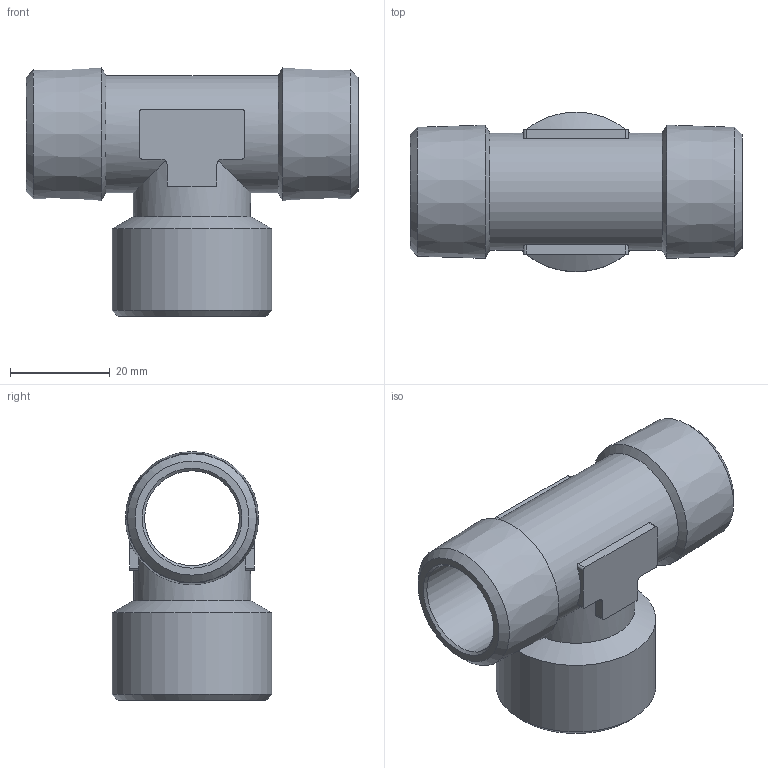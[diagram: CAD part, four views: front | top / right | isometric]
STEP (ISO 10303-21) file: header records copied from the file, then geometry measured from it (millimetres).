
FILE_DESCRIPTION(/* description */ (''),/* implementation_level */ '2;1');
FILE_NAME(/* name */ '40206_117_G34_R34_04.10.16',/* time_stamp */ '2016-10-04T08:42:29+02:00',/* author */ (''),/* organization */ (''),/* preprocessor_version */ 'ST-DEVELOPER v16.5',/* originating_system */ 'HiCAD 2016 2101.0 Build 254',/* authorisation */ '');
FILE_SCHEMA (('AUTOMOTIVE_DESIGN { 1 0 10303 214 1 1 1 1 }'));
Length unit declared in the file: millimetre
Products named in the file (2): Root; 40206
Assembly tree (1 placements, depth 2):
  Root
    40206
Bounding box: 66.5 x 32 x 49.84 mm (x, y, z)
Volume: 20911.7 mm3; surface area: 14143.1 mm2
Topology: 1 solids, 1 shells, 55 faces, 152 edges, 98 vertices
Faces by surface type: cylinder 22, plane 21, cone 12
Full cylindrical faces by diameter (mm): 19 x2, 23.5 x2, 24.117 x1, 32 x1
Entity records: 5477 total; most frequent: CARTESIAN_POINT 2944, DIRECTION 264, PRESENTATION_STYLE_ASSIGNMENT 249, COLOUR_RGB 249, DRAUGHTING_PRE_DEFINED_CURVE_FONT 248, CURVE_STYLE 248, OVER_RIDING_STYLED_ITEM 248, ORIENTED_EDGE 248
